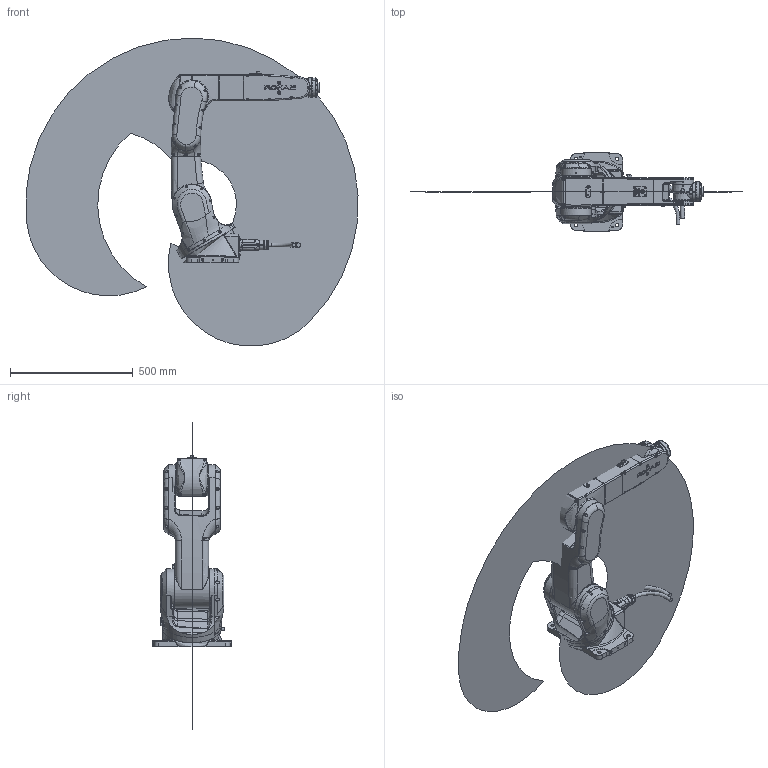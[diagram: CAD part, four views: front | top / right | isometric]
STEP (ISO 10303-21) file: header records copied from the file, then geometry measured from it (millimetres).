
FILE_DESCRIPTION(/* description */ (''),/* implementation_level */ '2;1');
FILE_NAME(/* name */ 'XB12／3-R906-04F4 简化模型 20210617.stp',/* time_stamp */ '2021-08-03T11:49:32+08:00',/* author */ (''),/* organization */ (''),/* preprocessor_version */ 'ST-DEVELOPER v16',/* originating_system */ 'SIEMENS PLM Software NX 10.0',/* authorisation */ '');
FILE_SCHEMA (('CONFIG_CONTROL_DESIGN'));
Products named in the file (6): XB12／3-R906-04F4-S1-WS; XB12／3-R906-04F4-S1-base; XB12／3-R906-04F4-S1-3; XB12／3-R906-04F4-S1-2; XB12／3-R906-04F4-S1-1; XB12／3-R906-04F4 简化模型 202
10617_stp_stp
Assembly tree (5 placements, depth 2):
  XB12／3-R906-04F4 简化模型 202
10617_stp_stp
    XB12／3-R906-04F4-S1-1
    XB12／3-R906-04F4-S1-2
    XB12／3-R906-04F4-S1-3
    XB12／3-R906-04F4-S1-base
    XB12／3-R906-04F4-S1-WS
Bounding box: 1351.29 x 318 x 1252.93 mm (x, y, z)
Volume: 27089238.6 mm3; surface area: 2378978.5 mm2
Topology: 8 solids, 18 shells, 3079 faces, 7457 edges, 4527 vertices
Faces by surface type: plane 995, cylinder 757, bspline 745, torus 227, cone 187, extrusion 136, sphere 32
Full cylindrical faces by diameter (mm): 3.3 x8, 3.4 x12, 4.2 x12, 4.5 x4, 4.826 x1, 5 x3, 5.5 x71, 6 x2, 7 x18, 8.5 x10, 9.5 x3, 10.701 x2, 13.5 x4, 14 x1, 15 x6, 20 x2, 40 x1, 45 x1, 50 x2, 55 x2, 59 x2, 65 x1, 68 x1, 70 x2, 86 x2, 88 x1, 100 x2, 119 x1, 120 x1
Entity records: 138339 total; most frequent: CARTESIAN_POINT 74372, ORIENTED_EDGE 13796, DIRECTION 11598, EDGE_CURVE 6901, AXIS2_PLACEMENT_3D 4576, VERTEX_POINT 4362, EDGE_LOOP 3591, ADVANCED_FACE 3071
